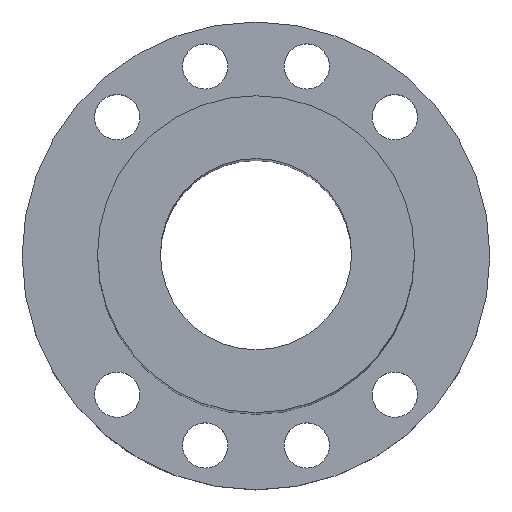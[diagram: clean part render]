
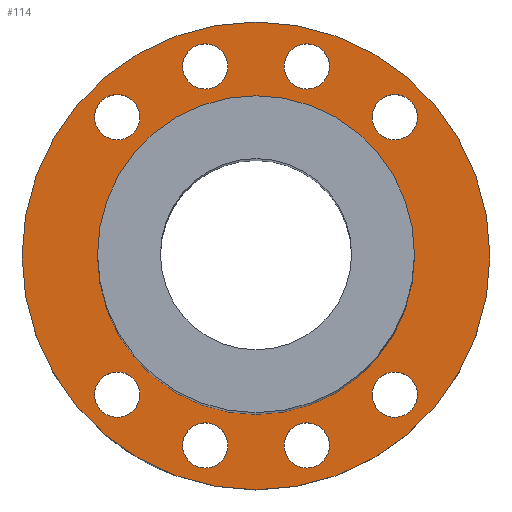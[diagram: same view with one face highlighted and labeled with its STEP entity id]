
A CAD part, top view. The second image highlights one B-rep face of the part: STEP entity #114.
In plain terms, the highlighted planar face has unit normal (0, 0, 1).
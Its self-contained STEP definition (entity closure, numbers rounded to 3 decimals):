
#99=PLANE('',#401);
#114=ADVANCED_FACE('',(#169,#170,#171,#172,#173,#174,#175,#176,#177,#178),
#99,.T.);
#169=FACE_BOUND('',#221,.T.);
#170=FACE_BOUND('',#222,.T.);
#171=FACE_BOUND('',#223,.T.);
#172=FACE_BOUND('',#224,.T.);
#173=FACE_BOUND('',#225,.T.);
#174=FACE_BOUND('',#226,.T.);
#175=FACE_BOUND('',#227,.T.);
#176=FACE_BOUND('',#228,.T.);
#177=FACE_BOUND('',#229,.T.);
#178=FACE_BOUND('',#230,.T.);
#221=EDGE_LOOP('',(#273));
#222=EDGE_LOOP('',(#274));
#223=EDGE_LOOP('',(#275));
#224=EDGE_LOOP('',(#276));
#225=EDGE_LOOP('',(#277));
#226=EDGE_LOOP('',(#278));
#227=EDGE_LOOP('',(#279));
#228=EDGE_LOOP('',(#280));
#229=EDGE_LOOP('',(#281));
#230=EDGE_LOOP('',(#282));
#273=ORIENTED_EDGE('',*,*,#316,.T.);
#274=ORIENTED_EDGE('',*,*,#337,.T.);
#275=ORIENTED_EDGE('',*,*,#336,.F.);
#276=ORIENTED_EDGE('',*,*,#318,.T.);
#277=ORIENTED_EDGE('',*,*,#335,.F.);
#278=ORIENTED_EDGE('',*,*,#334,.F.);
#279=ORIENTED_EDGE('',*,*,#333,.T.);
#280=ORIENTED_EDGE('',*,*,#332,.F.);
#281=ORIENTED_EDGE('',*,*,#331,.T.);
#282=ORIENTED_EDGE('',*,*,#338,.T.);
#290=VERTEX_POINT('',#495);
#292=VERTEX_POINT('',#557);
#305=VERTEX_POINT('',#644);
#306=VERTEX_POINT('',#647);
#307=VERTEX_POINT('',#650);
#308=VERTEX_POINT('',#653);
#309=VERTEX_POINT('',#656);
#310=VERTEX_POINT('',#659);
#311=VERTEX_POINT('',#662);
#312=VERTEX_POINT('',#665);
#316=EDGE_CURVE('',#290,#290,#342,.T.);
#318=EDGE_CURVE('',#292,#292,#343,.T.);
#331=EDGE_CURVE('',#305,#305,#355,.T.);
#332=EDGE_CURVE('',#306,#306,#356,.T.);
#333=EDGE_CURVE('',#307,#307,#357,.T.);
#334=EDGE_CURVE('',#308,#308,#358,.T.);
#335=EDGE_CURVE('',#309,#309,#359,.T.);
#336=EDGE_CURVE('',#310,#310,#360,.T.);
#337=EDGE_CURVE('',#311,#311,#361,.T.);
#338=EDGE_CURVE('',#312,#312,#362,.T.);
#342=CIRCLE('',#367,46.5);
#343=CIRCLE('',#369,31.5);
#355=CIRCLE('',#385,4.5);
#356=CIRCLE('',#387,4.5);
#357=CIRCLE('',#389,4.5);
#358=CIRCLE('',#391,4.5);
#359=CIRCLE('',#393,4.5);
#360=CIRCLE('',#395,4.5);
#361=CIRCLE('',#397,4.5);
#362=CIRCLE('',#399,4.5);
#367=AXIS2_PLACEMENT_3D('',#494,#411,#412);
#369=AXIS2_PLACEMENT_3D('',#556,#415,#416);
#385=AXIS2_PLACEMENT_3D('',#643,#447,#448);
#387=AXIS2_PLACEMENT_3D('',#646,#451,#452);
#389=AXIS2_PLACEMENT_3D('',#649,#455,#456);
#391=AXIS2_PLACEMENT_3D('',#652,#459,#460);
#393=AXIS2_PLACEMENT_3D('',#655,#463,#464);
#395=AXIS2_PLACEMENT_3D('',#658,#467,#468);
#397=AXIS2_PLACEMENT_3D('',#661,#471,#472);
#399=AXIS2_PLACEMENT_3D('',#664,#475,#476);
#401=AXIS2_PLACEMENT_3D('',#667,#479,#480);
#411=DIRECTION('',(0.,0.,1.));
#412=DIRECTION('',(1.,0.,0.));
#415=DIRECTION('',(0.,0.,-1.));
#416=DIRECTION('',(1.,0.,0.));
#447=DIRECTION('',(0.,0.,-1.));
#448=DIRECTION('',(-1.,0.,0.));
#451=DIRECTION('',(0.,0.,1.));
#452=DIRECTION('',(1.,0.,0.));
#455=DIRECTION('',(0.,0.,-1.));
#456=DIRECTION('',(-1.,0.,0.));
#459=DIRECTION('',(0.,0.,1.));
#460=DIRECTION('',(1.,0.,0.));
#463=DIRECTION('',(0.,0.,1.));
#464=DIRECTION('',(-1.,0.,0.));
#467=DIRECTION('',(0.,0.,1.));
#468=DIRECTION('',(-1.,0.,0.));
#471=DIRECTION('',(0.,0.,-1.));
#472=DIRECTION('',(1.,0.,0.));
#475=DIRECTION('',(0.,0.,-1.));
#476=DIRECTION('',(1.,0.,0.));
#479=DIRECTION('',(0.,0.,1.));
#480=DIRECTION('',(1.,0.,0.));
#494=CARTESIAN_POINT('',(0.,0.,14.));
#495=CARTESIAN_POINT('',(46.5,0.,14.));
#556=CARTESIAN_POINT('',(0.,0.,14.));
#557=CARTESIAN_POINT('',(31.5,0.,14.));
#643=CARTESIAN_POINT('',(27.577,27.577,14.));
#644=CARTESIAN_POINT('',(23.077,27.577,14.));
#646=CARTESIAN_POINT('',(-10.094,37.671,14.));
#647=CARTESIAN_POINT('',(-5.594,37.671,14.));
#649=CARTESIAN_POINT('',(10.094,37.671,14.));
#650=CARTESIAN_POINT('',(5.594,37.671,14.));
#652=CARTESIAN_POINT('',(-27.577,27.577,14.));
#653=CARTESIAN_POINT('',(-23.077,27.577,14.));
#655=CARTESIAN_POINT('',(27.577,-27.577,14.));
#656=CARTESIAN_POINT('',(23.077,-27.577,14.));
#658=CARTESIAN_POINT('',(10.094,-37.671,14.));
#659=CARTESIAN_POINT('',(5.594,-37.671,14.));
#661=CARTESIAN_POINT('',(-10.094,-37.671,14.));
#662=CARTESIAN_POINT('',(-5.594,-37.671,14.));
#664=CARTESIAN_POINT('',(-27.577,-27.577,14.));
#665=CARTESIAN_POINT('',(-23.077,-27.577,14.));
#667=CARTESIAN_POINT('',(-5.047,-18.836,14.));
